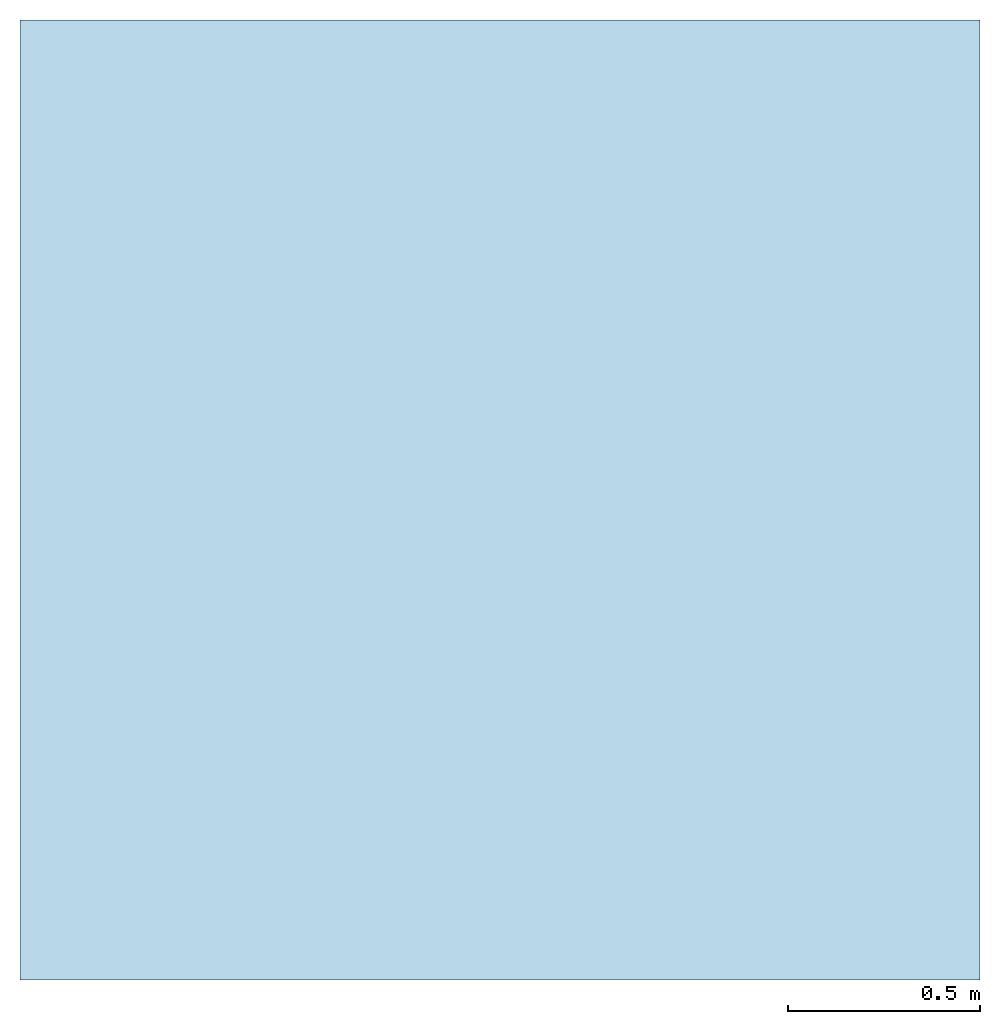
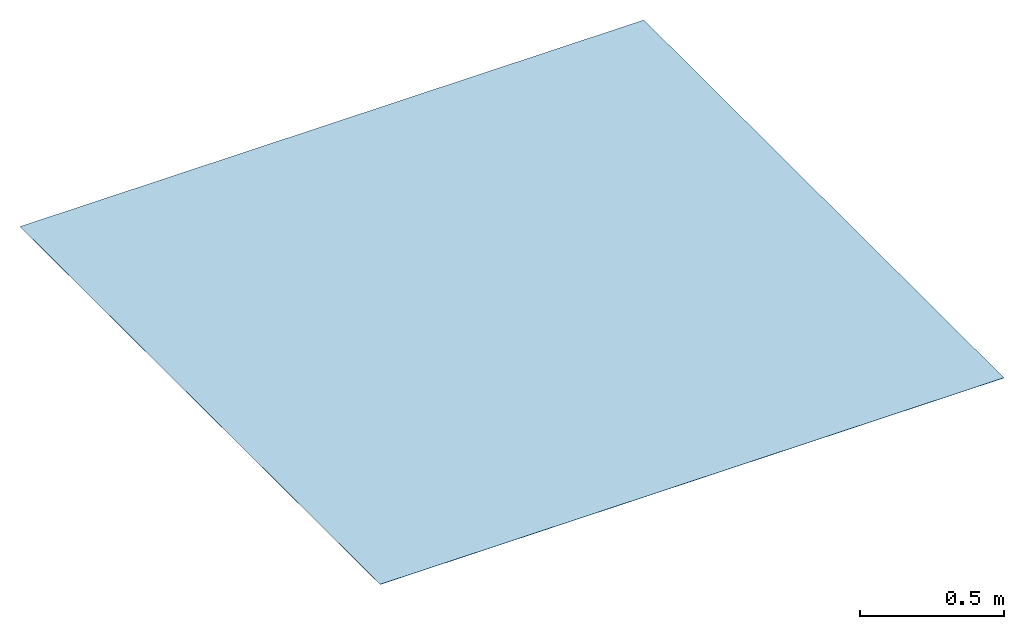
# Not in any storey: 1 slab.
"""IFC2X3 building model written with IfcOpenShell, lengths in millimetres."""

import ifcopenshell
import ifcopenshell.guid

model = None  # the IFC model being written
_history = None  # IfcOwnerHistory: only IFC2X3 demands one
_inside = {}  # id of a spatial element -> (the spatial element, [elements in it])
_under = {}  # id of a project, library or spatial element -> (it, [spatial elements below it])
_declared = {}  # id of a project -> (the project, [libraries it declares])
_typed = {}  # id of a type object -> (the type object, [elements of that type])
_made_of = {}  # id of a material, layer set ... -> (it, [elements and type objects made of it])


def new_model(schema):
    """Start an empty IFC model of exactly this schema.

    Asked for "IFC4X3", IfcOpenShell would pick the latest addendum, in which some entities
    have other attributes; the version numbers below select the first issue.
    IFC2X3 requires an IfcOwnerHistory on every rooted entity: one is made here for all.
    """
    global model, _history
    if schema == "IFC4X3":
        model = ifcopenshell.file(schema_version=(4, 3, 0, 0))
    else:
        model = ifcopenshell.file(schema=schema)
    _inside.clear()
    _under.clear()
    _declared.clear()
    _typed.clear()
    _made_of.clear()
    _history = None
    if model.schema == "IFC2X3":
        org = make("IfcOrganization", Name="unknown")
        user = make(
            "IfcPersonAndOrganization",
            ThePerson=make("IfcPerson", FamilyName="unknown"),
            TheOrganization=org,
        )
        app = make(
            "IfcApplication",
            ApplicationDeveloper=org,
            Version="unknown",
            ApplicationFullName="unknown",
            ApplicationIdentifier="unknown",
        )
        _history = make(
            "IfcOwnerHistory",
            OwningUser=user,
            OwningApplication=app,
            ChangeAction="ADDED",
            CreationDate=0,
        )
    return model


def make(cls, **values):
    """One entity of the class cls with the attributes given. An attribute that is None is left unset."""
    return model.create_entity(
        cls, **{name: value for name, value in values.items() if value is not None}
    )


def rooted(cls, **values):
    """An entity with a GlobalId (a new one), such as an element, a storey or a relation."""
    return make(cls, GlobalId=ifcopenshell.guid.new(), OwnerHistory=_history, **values)


def si_unit(unit_type, name, prefix=None):
    """IfcSIUnit, for example si_unit("LENGTHUNIT", "METRE", prefix="MILLI")."""
    return make("IfcSIUnit", UnitType=unit_type, Prefix=prefix, Name=name)


def assignment(units):
    """IfcUnitAssignment: the units of a project."""
    return None if units is None else make("IfcUnitAssignment", Units=units)


def point(xyz):
    """IfcCartesianPoint."""
    return None if xyz is None else make("IfcCartesianPoint", Coordinates=xyz)


def direction(xyz):
    """IfcDirection."""
    return None if xyz is None else make("IfcDirection", DirectionRatios=xyz)


def frame(location, z_axis=None, x_axis=None):
    """IfcAxis2Placement3D, a coordinate frame: its origin and axes. An axis left out is left unset."""
    return make(
        "IfcAxis2Placement3D",
        Location=point(location),
        Axis=direction(z_axis),
        RefDirection=direction(x_axis),
    )


def frame_2d(location, x_axis=None):
    """IfcAxis2Placement2D, a coordinate frame in the plane: its origin and x axis."""
    return make(
        "IfcAxis2Placement2D", Location=point(location), RefDirection=direction(x_axis)
    )


def origin():
    """The frame at (0, 0, 0) with its axes left unset."""
    return frame((0.0, 0.0, 0.0))


def origin_with_axes():
    """The frame at (0, 0, 0) with the z axis (0, 0, 1) and the x axis (1, 0, 0) written out."""
    return frame((0.0, 0.0, 0.0), z_axis=(0.0, 0.0, 1.0), x_axis=(1.0, 0.0, 0.0))


def origin_2d():
    """The frame at (0, 0) in the plane with its x axis left unset."""
    return frame_2d((0.0, 0.0))


def place(relative_to, where):
    """IfcLocalPlacement: puts the frame where relative to a parent placement (None: the world)."""
    return make(
        "IfcLocalPlacement", PlacementRelTo=relative_to, RelativePlacement=where
    )


def context(
    kind, dimensions, precision=None, world=None, true_north=None, identifier=None
):
    """IfcGeometricRepresentationContext, for example the 3D "Model" context."""
    return make(
        "IfcGeometricRepresentationContext",
        ContextIdentifier=identifier,
        ContextType=kind,
        CoordinateSpaceDimension=dimensions,
        Precision=precision,
        WorldCoordinateSystem=world,
        TrueNorth=true_north,
    )


def project(units=None, contexts=None):
    """IfcProject with its units and contexts."""
    return rooted(
        "IfcProject",
        Name="project",
        RepresentationContexts=contexts,
        UnitsInContext=assignment(units),
    )


def spatial(cls, under=None, at=None, **own):
    """A site, building, storey or space (cls), placed at a placement, below another one or the project."""
    s = rooted(cls, ObjectPlacement=at, **own)
    if under is not None:
        _under.setdefault(under.id(), (under, []))[1].append(s)
    return s


def profile(cls, at=None, kind="AREA", **sizes):
    """A parametric profile (cls). Its sizes go by their IFC names, for example OverallWidth=200.0."""
    return make(cls, ProfileType=kind, Position=at, **sizes)


def rectangle(**sizes):
    """IfcRectangleProfileDef."""
    return profile("IfcRectangleProfileDef", **sizes)


def extrude(swept, where, along, depth):
    """IfcExtrudedAreaSolid: the profile swept, set in the frame where, extruded along a direction by depth."""
    return make(
        "IfcExtrudedAreaSolid",
        SweptArea=swept,
        Position=where,
        ExtrudedDirection=direction(along),
        Depth=depth,
    )


def shape(context_of_items, identifier, shape_type, items):
    """IfcShapeRepresentation: the items that make up one representation, for example the "Body"."""
    return make(
        "IfcShapeRepresentation",
        ContextOfItems=context_of_items,
        RepresentationIdentifier=identifier,
        RepresentationType=shape_type,
        Items=items,
    )


def material(Name=None, Category=None):
    """IfcMaterial."""
    return make("IfcMaterial", Name=Name, Category=Category)


def layer(
    of_material, thickness, ventilated=None, Name=None, Category=None, Priority=None
):
    """IfcMaterialLayer: one layer of a wall or slab, of a material (None: an air gap)."""
    return make(
        "IfcMaterialLayer",
        Material=of_material,
        LayerThickness=thickness,
        IsVentilated=ventilated,
        Name=Name,
        Category=Category,
        Priority=Priority,
    )


def layer_set(layers, Name=None):
    """IfcMaterialLayerSet."""
    return make("IfcMaterialLayerSet", MaterialLayers=layers, LayerSetName=Name)


def layer_usage(for_layer_set, set_direction, sense, offset, extent=None):
    """IfcMaterialLayerSetUsage: how a layer set lies in its element."""
    return make(
        "IfcMaterialLayerSetUsage",
        ForLayerSet=for_layer_set,
        LayerSetDirection=set_direction,
        DirectionSense=sense,
        OffsetFromReferenceLine=offset,
        ReferenceExtent=extent,
    )


def made_of(thing, what):
    """Note that an element or type object is made of a material, layer set ...; save() writes the relation."""
    if what is not None:
        _made_of.setdefault(what.id(), (what, []))[1].append(thing)
    return thing


def type_object(cls, material=None, **own):
    """A type object (cls), such as IfcWallType, which elements share."""
    return made_of(rooted(cls, **own), material)


def element(
    cls,
    number,
    at=None,
    inside=None,
    cuts=None,
    type_object=None,
    material=None,
    context=None,
    identifier="Body",
    shape_type=None,
    held_by="IfcProductDefinitionShape",
    body=None,
    shapes=None,
    **own,
):
    """One element of the class cls, such as IfcWall. Its Tag is "e" and its number.

    at: its placement. inside: the storey or other place that contains it. cuts: it is an
    opening in that element (IfcRelVoidsElement). A single representation is given by context,
    identifier, shape_type and body (its items); several are given by shapes. held_by: the class
    of the entity that holds the representations. save() writes the other relations.
    """
    e = rooted(cls, Tag="e%d" % number, ObjectPlacement=at, **own)
    if body is not None:
        shapes = [shape(context, identifier, shape_type, body)]
    if shapes is not None:
        e.Representation = make(held_by, Representations=shapes)
    if inside is not None:
        _inside.setdefault(inside.id(), (inside, []))[1].append(e)
    if cuts is not None:
        rooted(
            "IfcRelVoidsElement", RelatingBuildingElement=cuts, RelatedOpeningElement=e
        )
    if type_object is not None:
        _typed.setdefault(type_object.id(), (type_object, []))[1].append(e)
    return made_of(e, material)


def aggregate(whole, parts):
    """IfcRelAggregates: a whole, such as a stair, and the parts it consists of."""
    return rooted("IfcRelAggregates", RelatingObject=whole, RelatedObjects=parts)


def save(model, path):
    """Write the relations noted so far, then the file.

    IfcRelAggregates (storeys below a building ...), IfcRelContainedInSpatialStructure (elements
    in a storey), IfcRelDefinesByType, IfcRelAssociatesMaterial and IfcRelDeclares: one each for
    every whole, place, type object, material and project.
    """
    for whole, parts in _under.values():
        aggregate(whole, parts)
    for where, things in _inside.values():
        rooted(
            "IfcRelContainedInSpatialStructure",
            RelatedElements=things,
            RelatingStructure=where,
        )
    for kind, things in _typed.values():
        rooted("IfcRelDefinesByType", RelatedObjects=things, RelatingType=kind)
    for what, things in _made_of.values():
        rooted("IfcRelAssociatesMaterial", RelatedObjects=things, RelatingMaterial=what)
    for by, libraries in _declared.values():
        rooted("IfcRelDeclares", RelatingContext=by, RelatedDefinitions=libraries)
    model.write(path)


model = new_model("IFC2X3")

# Units and contexts
model_context = context("Model", 3, precision=1e-05, world=origin())
plan_context = context("Plan", 2, precision=1e-05, world=origin_2d())
ifc_project = project(units=[si_unit("LENGTHUNIT", "METRE", prefix="MILLI"), si_unit("AREAUNIT", "SQUARE_METRE"), si_unit("VOLUMEUNIT", "CUBIC_METRE"), si_unit("SOLIDANGLEUNIT", "STERADIAN"), si_unit("PLANEANGLEUNIT", "RADIAN"), si_unit("MASSUNIT", "GRAM"), si_unit("TIMEUNIT", "SECOND"), si_unit("THERMODYNAMICTEMPERATUREUNIT", "DEGREE_CELSIUS"), si_unit("LUMINOUSINTENSITYUNIT", "LUMEN")], contexts=[model_context, plan_context])

# Site, building
site_placement = place(None, frame((0.0, 0.0, 0.0), z_axis=(0.0, 1.0, 0.0), x_axis=(0.0, 0.0, 1.0)))
site = spatial("IfcSite", under=ifc_project, at=site_placement, Name="Default site", CompositionType="ELEMENT")
building_placement = place(site_placement, frame((0.0, 0.0, 0.0), z_axis=(0.0, 1.0, 0.0), x_axis=(0.0, 0.0, 1.0)))
building = spatial("IfcBuilding", under=site, at=building_placement, Name="Default building", CompositionType="ELEMENT")

# Slab
ifc_material = material(Name="NBS_DeltaMembranes_CldApBitmnSol_MemtechLGB")
ifc_layer = layer(ifc_material, 1.0, ventilated=False)
ifc_layer_set = layer_set([ifc_layer], Name="NBS_DeltaMembranes_CldApBitmnSol_MemtechLGB")
ifc_layer_usage = layer_usage(ifc_layer_set, "AXIS3", "NEGATIVE", 0.0)
slab_type = type_object("IfcSlabType", Name="NBS_DeltaMembranes_CldApBitmnSol_MemtechLGB", PredefinedType="FLOOR", material=ifc_layer_set)
slab_placement = place(None, origin())
element("IfcSlab", 1, at=slab_placement, inside=building, type_object=slab_type, material=ifc_layer_usage, Name="NBS_DeltaMembranes_CldApBitmnSol_MemtechLGB", PredefinedType="FLOOR", context=model_context, shape_type="SweptSolid", body=[
    extrude(rectangle(XDim=2500.0, YDim=2500.0, at=frame_2d((1250.0, 1250.0))), origin_with_axes(), (0.0, 0.0, 1.0), 1.0),
])

save(model, "model.ifc")
